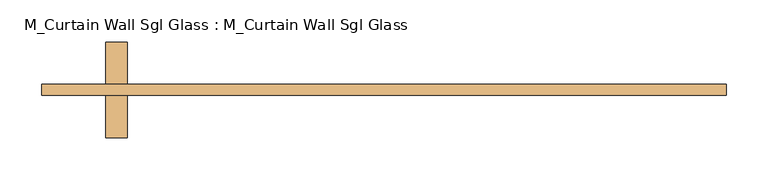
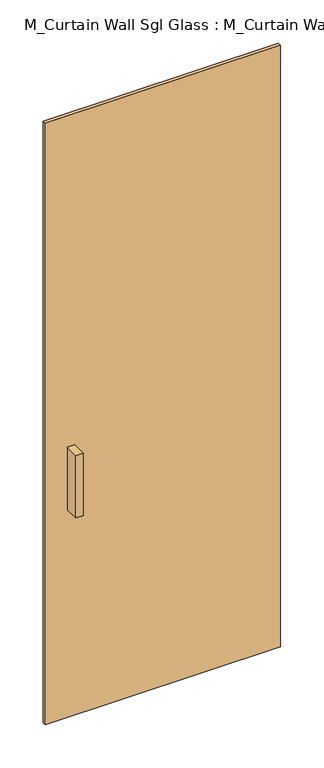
"""IFC4 building model written with IfcOpenShell, lengths in millimetres: door geometry, M_Curtain Wall Sgl Glass : M_Curtain Wall Sgl Glass."""

from ifc_helpers import new_model, si_unit, frame, origin, origin_with_axes, place, context, project, spatial, polyline, outline, extrude, source, transform, mapped, element, save


def m_curtain_wall_sgl_glass_m_curtain_wall_sgl_glass_40f2f05e(model_context):
    return source(origin(), model_context, "Body", "SweptSolid", [
        extrude(outline(polyline([(-306.7333333, -63.5), (-332.1333333, -63.5), (-332.1333333, -12.7), (-306.7333333, -12.7), (-306.7333333, -63.5)])), frame((0.0, 0.0, 762.0), z_axis=(0.0, 0.0, 1.0), x_axis=(1.0, 0.0, 0.0)), (0.0, 0.0, 1.0), 228.6),
        extrude(outline(polyline([(-332.1333333, 50.8), (-306.7333333, 50.8), (-306.7333333, 0.0), (-332.1333333, 0.0), (-332.1333333, 50.8)])), frame((0.0, 0.0, 762.0), z_axis=(0.0, 0.0, 1.0), x_axis=(1.0, 0.0, 0.0)), (0.0, 0.0, 1.0), 228.6),
        extrude(outline(polyline([(408.3333333, 0.0), (408.3333333, -12.7), (-408.3333333, -12.7), (-408.3333333, 0.0), (408.3333333, 0.0)])), origin_with_axes(), (0.0, 0.0, 1.0), 2204.5549543),
    ])


if __name__ == "__main__":
    model = new_model("IFC4")
    model_context = context("Model", 3, world=origin())
    ifc_project = project(units=[si_unit("LENGTHUNIT", "METRE", prefix="MILLI")], contexts=[model_context])
    site = spatial("IfcSite", under=ifc_project)
    building = spatial("IfcBuilding", under=site)
    placement = place(None, origin())
    m_curtain_wall_sgl_glass_m_curtain_wall_sgl_glass_shape = m_curtain_wall_sgl_glass_m_curtain_wall_sgl_glass_40f2f05e(model_context)
    element("IfcDoor", 1, ObjectType="M_Curtain Wall Sgl Glass : M_Curtain Wall Sgl Glass", at=placement, inside=building, context=model_context, shape_type="MappedRepresentation", body=[
        mapped(m_curtain_wall_sgl_glass_m_curtain_wall_sgl_glass_shape, transform((0.0, 0.0, 0.0), x_axis=(1.0, 0.0, 0.0), y_axis=(0.0, 1.0, 0.0), z_axis=(0.0, 0.0, 1.0))),
    ])
    save(model, "model.ifc")
